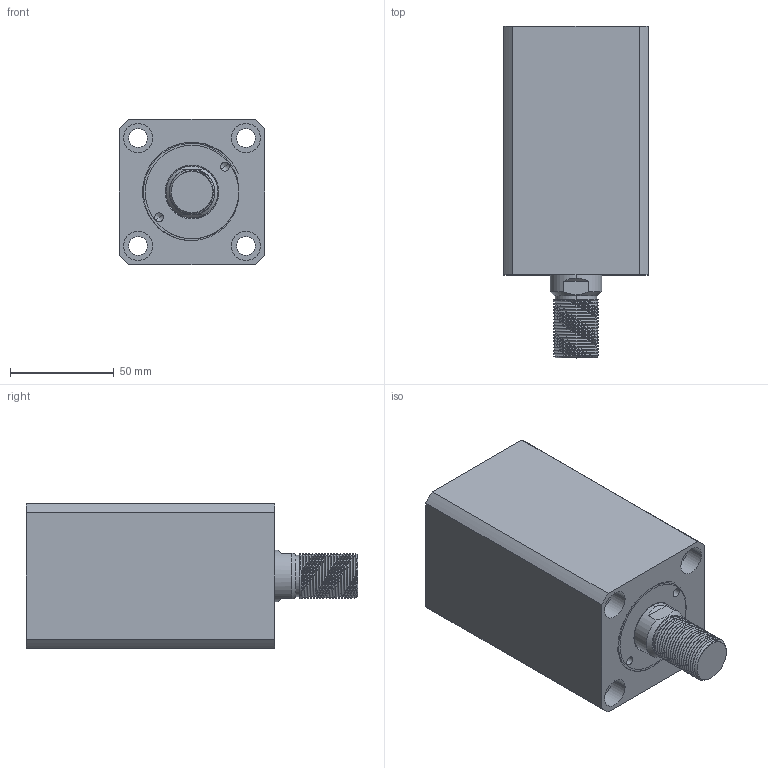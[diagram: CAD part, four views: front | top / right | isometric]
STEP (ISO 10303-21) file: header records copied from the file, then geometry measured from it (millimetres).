
FILE_DESCRIPTION (( 'STEP AP214' ), '1' );
FILE_NAME ('chtb-sd40x65w_asm.STEP', '2018-06-08T05:31:27', ( 'Windows' ), ( 'Microsoft' ), 'SwSTEP 2.0', 'SolidWorks 2015', '' );
FILE_SCHEMA (( 'AUTOMOTIVE_DESIGN' ));
Length unit declared in the file: millimetre
Products named in the file (4): CHTB-SD40QG; CHTB-SD40X65NBT; CHTB-SD40X65WHSG; chtb-sd40x65w_asm
Assembly tree (3 placements, depth 2):
  chtb-sd40x65w_asm
    CHTB-SD40X65WHSG
    CHTB-SD40X65NBT
    CHTB-SD40QG
Bounding box: 70 x 160 x 70 mm (x, y, z)
Volume: 505249.3 mm3; surface area: 99962.4 mm2
Topology: 3 solids, 4 shells, 203 faces, 533 edges, 355 vertices
Faces by surface type: cylinder 118, plane 40, bspline 16, cone 15, torus 14
Entity records: 13425 total; most frequent: CARTESIAN_POINT 8554, ORIENTED_EDGE 1054, DIRECTION 914, EDGE_CURVE 527, AXIS2_PLACEMENT_3D 380, VERTEX_POINT 355, EDGE_LOOP 240, FACE_OUTER_BOUND 203
